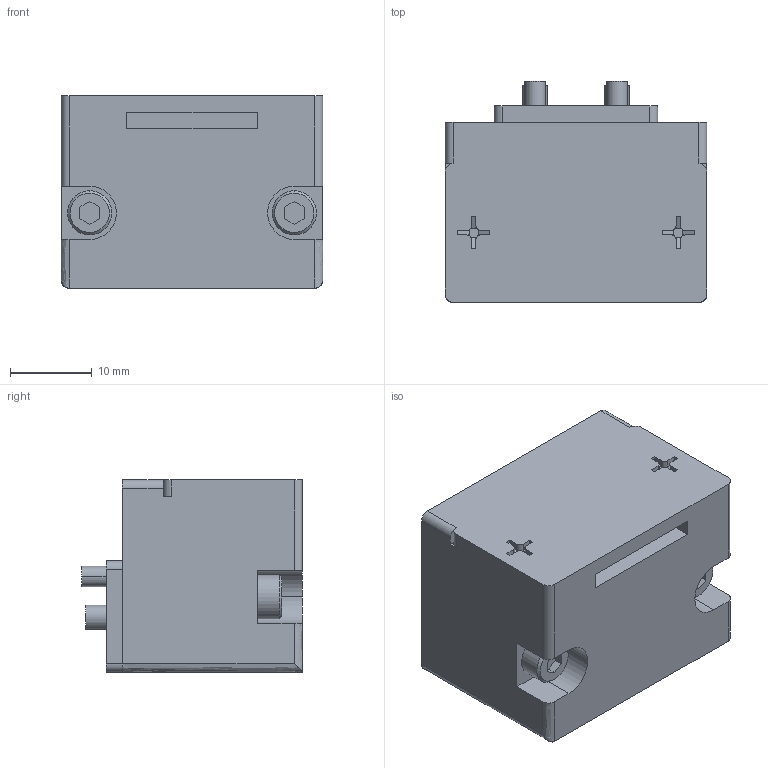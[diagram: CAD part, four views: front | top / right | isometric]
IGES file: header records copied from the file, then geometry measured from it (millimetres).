
Start section: 3D InterOp IGES (v. 2022 1.0.0), Spatial Corp. Copyright (c) 1999-2020.
Global section: file name: KHB-1RS-D38_ver1.igs; native system: Spatial Corp.; preprocessor: 3D InterOp GENERIC/IGES 3.0; author: Noname; organization: Noname; date: 20260424.083252; units: millimetre
Bounding box: 32 x 27 x 23.5 mm (x, y, z)
Surface area: 6484.5 mm2 (no closed solid volume)
Topology: 0 solids, 0 shells, 316 faces, 1426 edges, 1426 vertices
Faces by surface type: extrusion 171, revolution 145
